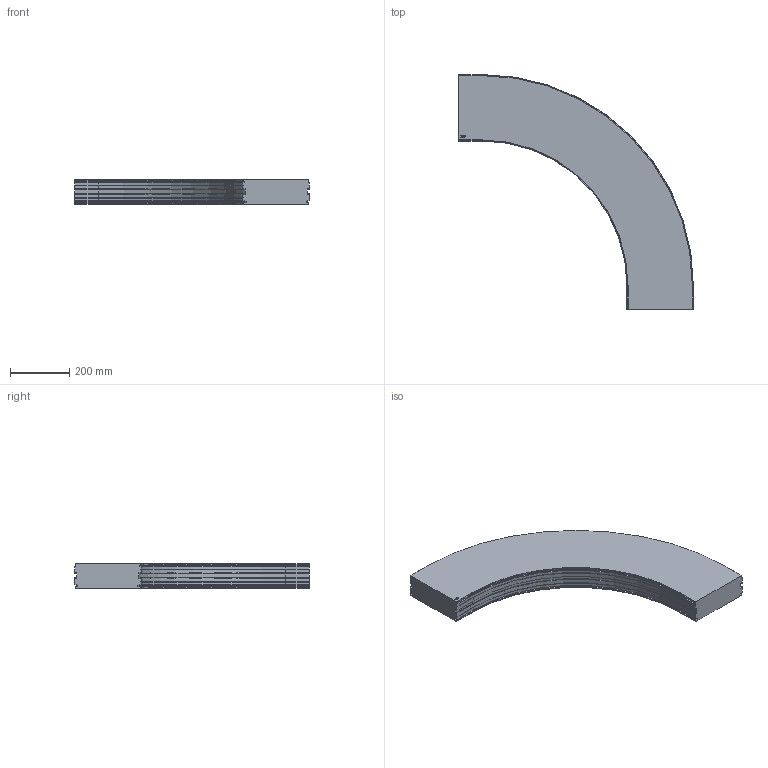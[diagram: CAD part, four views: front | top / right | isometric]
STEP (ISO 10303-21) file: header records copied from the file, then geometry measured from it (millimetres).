
FILE_DESCRIPTION((''),'2;1');
FILE_NAME('C:\Vault Klient\Projekt\Koncept konstruktion\Serie 220 Balk\220-5360.stp','2009-11-27T14:54:13',('Mathias'),(''),'Autodesk Inventor 2010','Autodesk Inventor 2010','');
FILE_SCHEMA(('AUTOMOTIVE_DESIGN { 1 0 10303 214 1 1 1 1 }'));
Length unit declared in the file: millimetre
Products named in the file (1): 220-5360
Bounding box: 792 x 792 x 81.5 mm (x, y, z)
Volume: 19621652.7 mm3; surface area: 831187.6 mm2
Topology: 1 solids, 1 shells, 165 faces, 442 edges, 284 vertices
Faces by surface type: plane 115, cylinder 24, bspline 14, cone 12
Entity records: 5279 total; most frequent: CARTESIAN_POINT 1134, ORIENTED_EDGE 884, DIRECTION 774, EDGE_CURVE 442, VECTOR 358, LINE 358, VERTEX_POINT 284, AXIS2_PLACEMENT_3D 208
